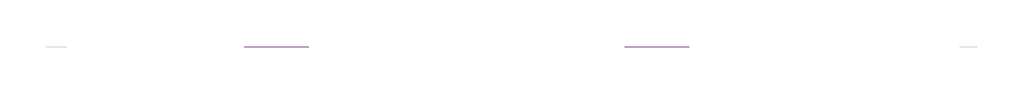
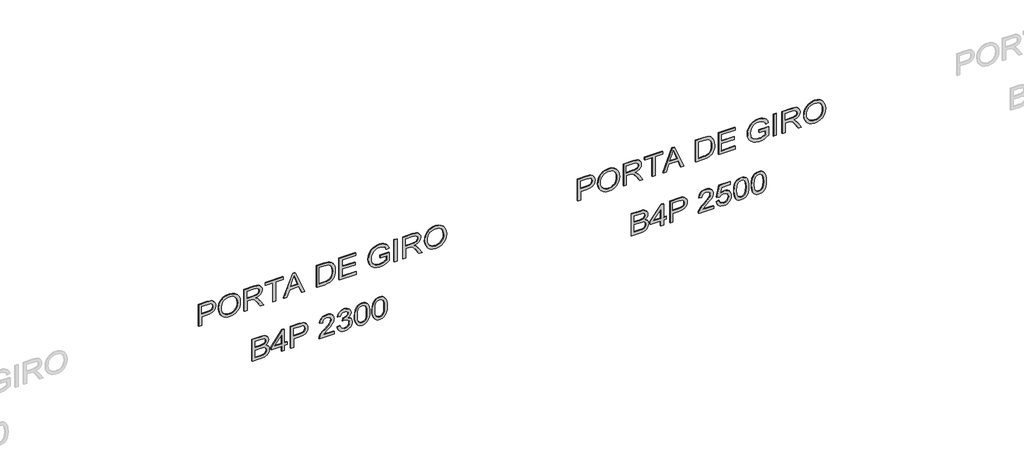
# One storey, part 6 of 13: 2 proxies.
"""IFC4 building model written with IfcOpenShell, lengths in millimetres."""

from ifc_helpers import new_model, si_unit, frame, origin, place, context, project, spatial, polyline, outline, extrude, element, save

model = new_model("IFC4")

# Units and contexts
model_context = context("Model", 3, world=origin())
ifc_project = project(units=[si_unit("LENGTHUNIT", "METRE", prefix="MILLI")], contexts=[model_context])

# Site, building, storey
site = spatial("IfcSite", under=ifc_project)
building = spatial("IfcBuilding", under=site)
storey = spatial("IfcBuildingStorey", under=building, Name="02 - Marelli - Planta Baixa - Portas", Elevation=-12000.0)

# Proxies
placement = place(None, origin())
element("IfcBuildingElementProxy", 1, Name="300mm Arial", ObjectType="300mm Arial", at=placement, inside=storey, context=model_context, shape_type="SweptSolid", body=[
    extrude(outline(polyline([(-6049.0625952, 27248.0968395), (-6049.0625952, 27285.7679558), (-5926.6314672, 27285.7679558), (-5926.6314672, 27362.3609872), (-5924.9668012, 27391.5593213), (-5919.9728031, 27415.8786204), (-5911.6494729, 27435.3188846), (-5899.9968107, 27449.8801138), (-5885.93912, 27460.4866116), (-5870.4007042, 27468.0626814), (-5853.3815634, 27472.6083233), (-5834.8816976, 27474.1235373), (-5813.4249802, 27471.8794571), (-5793.7892787, 27465.1472166), (-5777.1426184, 27454.7269591), (-5764.6530247, 27441.4188279), (-5755.9250244, 27424.8917293), (-5750.5631443, 27404.8145694), (-5747.6936647, 27359.7858132), (-5747.6936647, 27248.0968395), (-6049.0625952, 27248.0968395)]), holes=[polyline([(-5888.9603509, 27285.7679558), (-5785.364781, 27285.7679558), (-5785.364781, 27363.6853623), (-5787.939955, 27401.3564786), (-5794.2675253, 27415.5843148), (-5805.0096796, 27426.7771245), (-5819.283501, 27434.0335969), (-5836.2060728, 27436.452421), (-5858.4813276, 27432.3505367), (-5875.1279879, 27420.044884), (-5885.5022601, 27397.9719643), (-5888.9603509, 27364.5682791), (-5888.9603509, 27285.7679558)])]), frame((0.0, 8778.3159498, 0.0), z_axis=(0.0, 1.0, 0.0), x_axis=(0.0, 0.0, 1.0)), (0.0, 0.0, 1.0), 10.0),
    extrude(outline(polyline([(-5902.3512555, 27511.7946536), (-5940.8960916, 27516.0988729), (-5977.3623943, 27529.011531), (-6009.0554282, 27550.2751103), (-6033.2804576, 27579.6320935), (-6048.6487279, 27615.2798588), (-6053.7714847, 27655.4157845), (-6049.1361716, 27693.2248566), (-6035.2302322, 27728.3667842), (-6012.3111839, 27758.3307727), (-5980.6365441, 27780.6060275), (-5942.1744815, 27794.4291934), (-5898.8931648, 27799.0369154), (-5856.1820651, 27794.6591197), (-5818.2534314, 27781.5257325), (-5786.6339739, 27760.0414239), (-5762.8504029, 27730.6108643), (-5747.9511821, 27695.1654341), (-5742.9847752, 27655.6365137), (-5745.628927, 27625.3460299), (-5753.5613826, 27597.971011), (-5766.7821418, 27573.5114568), (-5785.2912046, 27551.9673675), (-5808.4723689, 27534.3918051), (-5835.7094321, 27521.8378321), (-5867.0023943, 27514.3054482), (-5902.3512555, 27511.7946536)]), holes=[polyline([(-5902.7191375, 27549.4657699), (-5872.1826326, 27551.4293401), (-5846.3504188, 27557.3200505), (-5825.222496, 27567.1379012), (-5808.7988641, 27580.8828923), (-5796.4863136, 27597.3502101), (-5787.6916347, 27615.3350411), (-5782.4148273, 27634.8373854), (-5780.6558915, 27655.8572429), (-5784.3071203, 27685.0210881), (-5795.2608067, 27711.1499068), (-5812.8547631, 27732.8089592), (-5836.426802, 27748.5635057), (-5865.2503563, 27758.1652258), (-5898.5988592, 27761.3657991), (-5925.1369466, 27759.4964987), (-5948.4652636, 27753.8885976), (-5968.5838102, 27744.5420956), (-5985.4925864, 27731.4569929), (-5998.883491, 27715.4748195), (-6008.4484229, 27697.4371054), (-6014.187382, 27677.3438507), (-6016.1003684, 27655.1950553), (-6014.2057761, 27633.4187405), (-6008.5219993, 27613.5600105), (-5999.0490379, 27595.6188655), (-5985.786892, 27579.5953053), (-5969.2276037, 27566.4136336), (-5949.8632152, 27556.9981538), (-5927.6937264, 27551.3488659), (-5902.7191375, 27549.4657699)])]), frame((0.0, 8778.3159498, 0.0), z_axis=(0.0, 1.0, 0.0), x_axis=(0.0, 0.0, 1.0)), (0.0, 0.0, 1.0), 10.0),
    extrude(outline(polyline([(-6049.0625952, 27850.8347003), (-6049.0625952, 27888.5058167), (-5917.2136881, 27888.5058167), (-5917.2136881, 27933.9760313), (-5918.5380633, 27955.8282218), (-5925.7117622, 27973.7440749), (-5945.2462961, 27993.6464909), (-5986.5962324, 28021.9734045), (-6049.0625952, 28061.1896252), (-6049.0625952, 28104.9675826), (-5967.3927923, 28054.7149021), (-5928.61803, 28024.1806965), (-5912.5047986, 28002.7699644), (-5902.5168024, 28039.8800606), (-5894.5015734, 28054.2619474), (-5884.4721905, 28065.8617265), (-5859.8608851, 28081.1748146), (-5830.1728081, 28086.2791773), (-5806.3064636, 28083.1981656), (-5784.5922289, 28073.9551304), (-5767.0810459, 28059.5525503), (-5755.8238568, 28040.9929037), (-5749.7262128, 28015.5998489), (-5747.6936647, 27980.6970446), (-5747.6936647, 27850.8347003), (-6049.0625952, 27850.8347003)]), holes=[polyline([(-5879.5425718, 27888.5058167), (-5785.364781, 27888.5058167), (-5785.364781, 27982.3157254), (-5788.6205367, 28012.1233641), (-5798.3878037, 28032.6787706), (-5813.195054, 28044.6257384), (-5831.5707596, 28048.608061), (-5844.8788908, 28046.5203306), (-5857.1385583, 28040.2571397), (-5867.2737073, 28029.9748379), (-5874.2082829, 28015.8297752), (-5878.2089996, 27997.0402023), (-5879.5425718, 27972.82437), (-5879.5425718, 27888.5058167)])]), frame((0.0, 8778.3159498, 0.0), z_axis=(0.0, 1.0, 0.0), x_axis=(0.0, 0.0, 1.0)), (0.0, 0.0, 1.0), 10.0),
    extrude(outline(polyline([(-6049.0625952, 28227.5458634), (-6049.0625952, 28265.2169797), (-5785.364781, 28265.2169797), (-5785.364781, 28364.10366), (-5747.6936647, 28364.10366), (-5747.6936647, 28128.6591831), (-5785.364781, 28128.6591831), (-5785.364781, 28227.5458634), (-6049.0625952, 28227.5458634)])), frame((0.0, 8778.3159498, 0.0), z_axis=(0.0, 1.0, 0.0), x_axis=(0.0, 0.0, 1.0)), (0.0, 0.0, 1.0), 10.0),
    extrude(outline(polyline([(-6049.0625952, 28371.3877235), (-6049.0625952, 28411.1925554), (-5954.8848044, 28445.6263102), (-5954.8848044, 28569.7496953), (-6049.0625952, 28604.2570265), (-6049.0625952, 28644.0618583), (-5747.6936647, 28523.7644459), (-5747.6936647, 28491.6851359), (-6049.0625952, 28371.3877235)]), holes=[polyline([(-5917.2136881, 28459.4586732), (-5836.6475312, 28488.9628092), (-5785.364781, 28507.7247909), (-5843.1222543, 28528.8412175), (-5917.2136881, 28555.9909087), (-5917.2136881, 28459.4586732)])]), frame((0.0, 8778.3159498, 0.0), z_axis=(0.0, 1.0, 0.0), x_axis=(0.0, 0.0, 1.0)), (0.0, 0.0, 1.0), 10.0),
    extrude(outline(polyline([(-6049.0625952, 28802.0303871), (-6049.0625952, 28910.9970341), (-6043.9122473, 28959.4470928), (-6037.5570858, 28978.9908238), (-6028.7922972, 28995.4627401), (-6016.9740882, 29009.810138), (-6001.458665, 29022.9803134), (-5981.8045694, 29034.4214434), (-5957.570343, 29043.5817051), (-5929.1054736, 29049.5965757), (-5896.7594492, 29051.6015326), (-5858.6836627, 29048.6400825), (-5825.0960365, 29039.7557324), (-5796.5483937, 29024.9116939), (-5773.5925572, 29004.0711788), (-5760.4039877, 28983.8008809), (-5752.0346723, 28959.7781866), (-5747.6936647, 28905.9938389), (-5747.6936647, 28802.0303871), (-6049.0625952, 28802.0303871)]), holes=[polyline([(-6011.3914789, 28839.7015034), (-5785.364781, 28839.7015034), (-5785.364781, 28905.3316513), (-5786.8730972, 28937.0798675), (-5791.3980458, 28958.748117), (-5803.97961, 28980.0392875), (-5824.8017309, 28997.8539731), (-5855.1152073, 29009.9113055), (-5896.170838, 29013.9304163), (-5927.155699, 29011.8794742), (-5953.155759, 29005.7266478), (-5974.2629885, 28995.8950015), (-5990.5693579, 28982.8075995), (-5999.3801317, 28970.6307055), (-6005.9468253, 28954.8485679), (-6010.0303155, 28933.9344764), (-6011.3914789, 28906.3617209), (-6011.3914789, 28839.7015034)])]), frame((0.0, 8778.3159498, 0.0), z_axis=(0.0, 1.0, 0.0), x_axis=(0.0, 0.0, 1.0)), (0.0, 0.0, 1.0), 10.0),
    extrude(outline(polyline([(-6049.0625952, 29103.3993175), (-6049.0625952, 29324.7171258), (-6011.3914789, 29324.7171258), (-6011.3914789, 29141.0704338), (-5912.5047986, 29141.0704338), (-5912.5047986, 29310.5904572), (-5874.8336823, 29310.5904572), (-5874.8336823, 29141.0704338), (-5785.364781, 29141.0704338), (-5785.364781, 29320.0082363), (-5747.6936647, 29320.0082363), (-5747.6936647, 29103.3993175), (-6049.0625952, 29103.3993175)])), frame((0.0, 8778.3159498, 0.0), z_axis=(0.0, 1.0, 0.0), x_axis=(0.0, 0.0, 1.0)), (0.0, 0.0, 1.0), 10.0),
    extrude(outline(polyline([(-5931.3403567, 29640.2127249), (-5931.3403567, 29724.9727366), (-5985.786892, 29724.9727366), (-5996.4278787, 29708.9238845), (-6006.4250719, 29686.8233737), (-6013.6815443, 29661.3751367), (-6016.1003684, 29635.2831062), (-6012.890598, 29605.7329849), (-6003.2612868, 29577.8567267), (-5987.0192967, 29554.0363675), (-5963.9714897, 29536.6539432), (-5934.3293979, 29526.0313506), (-5898.3045536, 29522.4904864), (-5867.586407, 29525.4335424), (-5839.1491287, 29534.2627103), (-5810.1232393, 29553.6500914), (-5798.1854686, 29568.0894597), (-5788.7860836, 29586.4651654), (-5782.6884395, 29608.694435), (-5780.6558915, 29634.694495), (-5782.5412867, 29656.9053704), (-5788.1974724, 29677.0377126), (-5796.9898521, 29693.9234962), (-5808.2838293, 29706.3946958), (-5823.2658236, 29715.8216719), (-5843.1222543, 29723.574785), (-5833.3365932, 29758.3028453), (-5805.4971232, 29748.7103223), (-5783.4885829, 29735.5309498), (-5766.4924347, 29717.7162642), (-5753.6901413, 29694.2178018), (-5745.6611167, 29666.3139524), (-5742.9847752, 29635.2831062), (-5747.6016942, 29593.0134649), (-5761.4524514, 29555.967748), (-5784.803761, 29525.553104), (-5817.9223376, 29503.1766817), (-5857.4052727, 29489.408698), (-5899.8496579, 29484.8193701), (-5941.9905405, 29489.4270921), (-5979.9743565, 29503.2502581), (-6011.6397992, 29526.1141241), (-6034.825562, 29557.8439462), (-6049.035004, 29596.0392943), (-6053.7714847, 29638.2997385), (-6050.7916406, 29670.6457629), (-6041.8521081, 29702.2008411), (-6027.0080696, 29732.8913965), (-6006.3147073, 29762.6438529), (-5893.6692404, 29762.6438529), (-5893.6692404, 29640.2127249), (-5931.3403567, 29640.2127249)])), frame((0.0, 8778.3159498, 0.0), z_axis=(0.0, 1.0, 0.0), x_axis=(0.0, 0.0, 1.0)), (0.0, 0.0, 1.0), 10.0),
    extrude(outline(polyline([(29866.2394227, 8778.3159498), (29828.5683064, 8778.3159498), (29828.5683064, 8788.3159498), (29866.2394227, 8788.3159498), (29866.2394227, 8778.3159498)])), frame((0.0, 0.0, -6049.0625952), z_axis=(0.0, 0.0, 1.0), x_axis=(1.0, 0.0, 0.0)), (0.0, 0.0, 1.0), 301.3689304),
    extrude(outline(polyline([(-6049.0625952, 29941.5816553), (-6049.0625952, 29979.2527716), (-5917.2136881, 29979.2527716), (-5917.2136881, 30024.7229862), (-5918.5380633, 30046.5751768), (-5925.7117622, 30064.4910299), (-5945.2462961, 30084.3934459), (-5986.5962324, 30112.7203595), (-6049.0625952, 30151.9365802), (-6049.0625952, 30195.7145376), (-5967.3927923, 30145.4618571), (-5928.61803, 30114.9276515), (-5912.5047986, 30093.5169193), (-5902.5168024, 30130.6270156), (-5894.5015734, 30145.0089024), (-5884.4721905, 30156.6086815), (-5859.8608851, 30171.9217696), (-5830.1728081, 30177.0261323), (-5806.3064636, 30173.9451205), (-5784.5922289, 30164.7020854), (-5767.0810459, 30150.2995053), (-5755.8238568, 30131.7398586), (-5749.7262128, 30106.3468039), (-5747.6936647, 30071.4439996), (-5747.6936647, 29941.5816553), (-6049.0625952, 29941.5816553)]), holes=[polyline([(-5879.5425718, 29979.2527716), (-5785.364781, 29979.2527716), (-5785.364781, 30073.0626804), (-5788.6205367, 30102.8703191), (-5798.3878037, 30123.4257256), (-5813.195054, 30135.3726933), (-5831.5707596, 30139.3550159), (-5844.8788908, 30137.2672856), (-5857.1385583, 30131.0040947), (-5867.2737073, 30120.7217929), (-5874.2082829, 30106.5767302), (-5878.2089996, 30087.7871573), (-5879.5425718, 30063.5713249), (-5879.5425718, 29979.2527716)])]), frame((0.0, 8778.3159498, 0.0), z_axis=(0.0, 1.0, 0.0), x_axis=(0.0, 0.0, 1.0)), (0.0, 0.0, 1.0), 10.0),
    extrude(outline(polyline([(-5902.3512555, 30228.8239172), (-5940.8960916, 30233.1281365), (-5977.3623943, 30246.0407945), (-6009.0554282, 30267.3043739), (-6033.2804576, 30296.6613571), (-6048.6487279, 30332.3091224), (-6053.7714847, 30372.4450481), (-6049.1361716, 30410.2541201), (-6035.2302322, 30445.3960477), (-6012.3111839, 30475.3600362), (-5980.6365441, 30497.635291), (-5942.1744815, 30511.458457), (-5898.8931648, 30516.066179), (-5856.1820651, 30511.6883833), (-5818.2534314, 30498.554996), (-5786.6339739, 30477.0706875), (-5762.8504029, 30447.6401279), (-5747.9511821, 30412.1946977), (-5742.9847752, 30372.6657773), (-5745.628927, 30342.3752935), (-5753.5613826, 30315.0002745), (-5766.7821418, 30290.5407204), (-5785.2912046, 30268.996631), (-5808.4723689, 30251.4210687), (-5835.7094321, 30238.8670956), (-5867.0023943, 30231.3347118), (-5902.3512555, 30228.8239172)]), holes=[polyline([(-5902.7191375, 30266.4950335), (-5872.1826326, 30268.4586036), (-5846.3504188, 30274.3493141), (-5825.222496, 30284.1671648), (-5808.7988641, 30297.9121559), (-5796.4863136, 30314.3794737), (-5787.6916347, 30332.3643047), (-5782.4148273, 30351.866649), (-5780.6558915, 30372.8865065), (-5784.3071203, 30402.0503517), (-5795.2608067, 30428.1791704), (-5812.8547631, 30449.8382228), (-5836.426802, 30465.5927693), (-5865.2503563, 30475.1944893), (-5898.5988592, 30478.3950627), (-5925.1369466, 30476.5257623), (-5948.4652636, 30470.9178611), (-5968.5838102, 30461.5713592), (-5985.4925864, 30448.4862565), (-5998.883491, 30432.5040831), (-6008.4484229, 30414.466369), (-6014.187382, 30394.3731143), (-6016.1003684, 30372.2243189), (-6014.2057761, 30350.448004), (-6008.5219993, 30330.5892741), (-5999.0490379, 30312.648129), (-5985.786892, 30296.6245689), (-5969.2276037, 30283.4428971), (-5949.8632152, 30274.0274173), (-5927.6937264, 30268.3781294), (-5902.7191375, 30266.4950335)])]), frame((0.0, 8778.3159498, 0.0), z_axis=(0.0, 1.0, 0.0), x_axis=(0.0, 0.0, 1.0)), (0.0, 0.0, 1.0), 10.0),
    extrude(outline(polyline([(-6780.9115023, 27954.4302702), (-6780.9115023, 28068.5472651), (-6775.7243661, 28116.8501711), (-6769.3048253, 28134.8855859), (-6760.4204751, 28149.6284568), (-6748.1516106, 28161.6673951), (-6731.5785267, 28171.5910119), (-6712.089978, 28178.240479), (-6691.074719, 28180.456968), (-6665.8564083, 28177.2104094), (-6644.2065528, 28167.4707336), (-6627.2471929, 28151.6977931), (-6616.1003684, 28130.3514403), (-6604.3557357, 28148.2213082), (-6589.4289238, 28160.9224341), (-6572.3683962, 28168.5100002), (-6554.2226168, 28171.039189), (-6534.5041419, 28168.0317536), (-6515.6685837, 28159.0094477), (-6499.6565199, 28144.680444), (-6488.4085279, 28125.7529153), (-6481.7590608, 28101.0588364), (-6479.5425718, 28069.4301819), (-6479.5425718, 27954.4302702), (-6780.9115023, 27954.4302702)]), holes=[polyline([(-6743.2403859, 27992.1013865), (-6639.6448161, 27992.1013865), (-6639.6448161, 28065.6777855), (-6640.9048119, 28092.50558), (-6644.6847994, 28112.2148579), (-6651.5733898, 28126.1299944), (-6662.1591942, 28135.5753646), (-6675.6972516, 28140.9832299), (-6691.442601, 28142.7858517), (-6704.9990525, 28141.2499444), (-6716.8264587, 28136.6422224), (-6733.5650895, 28120.9704494), (-6741.768858, 28097.3156371), (-6743.2403859, 28069.3566055), (-6743.2403859, 27992.1013865)]), polyline([(-6601.9736998, 27992.1013865), (-6517.2136881, 27992.1013865), (-6517.2136881, 28055.6713953), (-6521.1500255, 28104.0846658), (-6526.7510288, 28116.5742596), (-6535.6813643, 28125.7897035), (-6547.1224943, 28131.4734804), (-6560.2558815, 28133.3680726), (-6573.7847419, 28131.3355246), (-6584.7936106, 28125.2378806), (-6593.153729, 28115.1303227), (-6598.7363382, 28101.0680335), (-6601.9736998, 28060.8953196), (-6601.9736998, 27992.1013865)])]), frame((0.0, 8778.3159498, 0.0), z_axis=(0.0, 1.0, 0.0), x_axis=(0.0, 0.0, 1.0)), (0.0, 0.0, 1.0), 10.0),
    extrude(outline(polyline([(-6780.9115023, 28340.5592123), (-6780.9115023, 28378.2303286), (-6710.2781592, 28378.2303286), (-6710.2781592, 28415.9014449), (-6672.6070429, 28415.9014449), (-6672.6070429, 28378.2303286), (-6484.2514613, 28378.2303286), (-6484.2514613, 28349.9769914), (-6672.6070429, 28204.0014157), (-6710.2781592, 28204.0014157), (-6710.2781592, 28340.5592123), (-6780.9115023, 28340.5592123)]), holes=[polyline([(-6672.6070429, 28340.5592123), (-6672.6070429, 28250.3545471), (-6556.2091796, 28340.5592123), (-6672.6070429, 28340.5592123)])]), frame((0.0, 8778.3159498, 0.0), z_axis=(0.0, 1.0, 0.0), x_axis=(0.0, 0.0, 1.0)), (0.0, 0.0, 1.0), 10.0),
    extrude(outline(polyline([(-6780.9115023, 28462.9903403), (-6780.9115023, 28500.6614566), (-6658.4803743, 28500.6614566), (-6658.4803743, 28577.254488), (-6656.8157082, 28606.4528221), (-6651.8217101, 28630.7721213), (-6643.49838, 28650.2123855), (-6631.8457178, 28664.7736147), (-6617.7880271, 28675.3801125), (-6602.2496113, 28682.9561823), (-6585.2304705, 28687.5018242), (-6566.7306047, 28689.0170382), (-6545.2738873, 28686.772958), (-6525.6381858, 28680.0407175), (-6508.9915255, 28669.62046), (-6496.5019318, 28656.3123288), (-6487.7739314, 28639.7852302), (-6482.4120514, 28619.7080703), (-6479.5425718, 28574.6793141), (-6479.5425718, 28462.9903403), (-6780.9115023, 28462.9903403)]), holes=[polyline([(-6620.809258, 28500.6614566), (-6517.2136881, 28500.6614566), (-6517.2136881, 28578.5788632), (-6519.7888621, 28616.2499795), (-6526.1164324, 28630.4778157), (-6536.8585867, 28641.6706254), (-6551.1324081, 28648.9270977), (-6568.0549798, 28651.3459219), (-6590.3302347, 28647.2440376), (-6606.9768949, 28634.9383849), (-6617.3511672, 28612.8654652), (-6620.809258, 28579.46178), (-6620.809258, 28500.6614566)])]), frame((0.0, 8778.3159498, 0.0), z_axis=(0.0, 1.0, 0.0), x_axis=(0.0, 0.0, 1.0)), (0.0, 0.0, 1.0), 10.0),
    extrude(outline(polyline([(-6743.2403859, 29037.474864), (-6743.2403859, 28889.5127255), (-6724.073734, 28906.5088737), (-6687.8373575, 28949.8453727), (-6658.8206651, 28982.5408851), (-6636.2235136, 29003.8136614), (-6617.2959849, 29017.1585808), (-6599.2881612, 29026.0705221), (-6581.5838402, 29031.0921114), (-6563.5668195, 29032.7659745), (-6546.4143215, 29031.2139723), (-6530.7149573, 29026.5579658), (-6516.4687271, 29018.7979549), (-6503.6756307, 29007.9339398), (-6493.1174174, 28994.4073787), (-6485.5758365, 28978.65973), (-6481.050888, 28960.6909938), (-6479.5425718, 28940.5011701), (-6484.9688312, 28902.6185216), (-6491.7516555, 28886.8846685), (-6501.2476095, 28873.2891295), (-6513.3279345, 28862.0894221), (-6527.8638719, 28853.5430635), (-6564.3025835, 28844.4103929), (-6569.011473, 28882.0815092), (-6547.3616176, 28886.1558023), (-6530.9724747, 28897.9372232), (-6520.6533848, 28916.1933672), (-6517.2136881, 28939.6918297), (-6520.7361582, 28962.068252), (-6531.3035685, 28979.7541789), (-6546.9845386, 28991.2596883), (-6565.8476879, 28995.0948581), (-6586.890538, 28991.0297621), (-6608.5219993, 28978.834474), (-6635.1750499, 28954.4438977), (-6671.2826677, 28913.7929372), (-6694.3396717, 28886.2937581), (-6714.9502605, 28866.6304654), (-6734.6411443, 28853.0372257), (-6754.9390334, 28843.7482053), (-6780.9115023, 28839.7015034), (-6780.9115023, 29037.474864), (-6743.2403859, 29037.474864)])), frame((0.0, 8778.3159498, 0.0), z_axis=(0.0, 1.0, 0.0), x_axis=(0.0, 0.0, 1.0)), (0.0, 0.0, 1.0), 10.0),
    extrude(outline(polyline([(-6700.8603801, 29075.1459803), (-6718.7532406, 29078.3971374), (-6734.9078588, 29084.4717889), (-6749.3242344, 29093.3699346), (-6762.0023677, 29105.0915747), (-6772.3352532, 29119.0710905), (-6779.7158858, 29134.7428635), (-6784.1442653, 29152.1068937), (-6785.6203918, 29171.163181), (-6783.8913464, 29192.2474179), (-6778.7042103, 29211.4278654), (-6770.0589834, 29228.7045236), (-6757.9556658, 29244.0773925), (-6743.3691446, 29256.6957449), (-6727.2743074, 29265.7088538), (-6709.6711539, 29271.1167191), (-6690.5596842, 29272.9193409), (-6663.593934, 29269.3140974), (-6641.5578025, 29258.4983667), (-6625.3342065, 29241.0239719), (-6615.8060628, 29217.442736), (-6604.9351499, 29235.3953774), (-6590.8636635, 29248.3448236), (-6574.345762, 29256.1807101), (-6556.1356032, 29258.7926723), (-6536.5918722, 29256.0427544), (-6518.1333931, 29247.7930006), (-6502.1121322, 29234.3469137), (-6489.8800559, 29216.0079963), (-6482.1269428, 29194.2569733), (-6479.5425718, 29170.5745698), (-6484.7848902, 29137.6859195), (-6500.5118455, 29110.683381), (-6525.7669445, 29090.946512), (-6559.593694, 29079.8548698), (-6564.3025835, 29117.5259861), (-6543.7011918, 29124.2030444), (-6528.985912, 29135.9936623), (-6520.1567441, 29152.1436819), (-6517.2136881, 29171.898945), (-6520.1291529, 29191.61742), (-6528.8755474, 29207.3627694), (-6542.0733139, 29217.6818593), (-6558.3428952, 29221.121556), (-6577.8774291, 29216.3758782), (-6591.5994275, 29202.138845), (-6599.7112255, 29181.9605176), (-6602.4151582, 29159.3909572), (-6601.9736998, 29153.3576925), (-6639.6448161, 29149.1638377), (-6635.5245378, 29175.577765), (-6639.3781017, 29199.2693655), (-6650.9387934, 29218.3992292), (-6668.385597, 29231.0359758), (-6689.8974966, 29235.2482246), (-6712.5590276, 29230.9991876), (-6731.2474329, 29218.2520764), (-6743.7738148, 29198.3128723), (-6747.9492755, 29172.4875562), (-6744.914249, 29150.4790159), (-6735.8091696, 29133.6024293), (-6719.824697, 29121.2507913), (-6696.1514906, 29112.8170966), (-6700.8603801, 29075.1459803)])), frame((0.0, 8778.3159498, 0.0), z_axis=(0.0, 1.0, 0.0), x_axis=(0.0, 0.0, 1.0)), (0.0, 0.0, 1.0), 10.0),
    extrude(outline(polyline([(-6632.6550582, 29305.8815677), (-6672.0966066, 29307.7577658), (-6705.9555457, 29313.3863604), (-6734.2318756, 29322.7673513), (-6756.9255962, 29335.9007385), (-6769.4795693, 29349.5859487), (-6778.4466929, 29365.6256037), (-6783.8269671, 29384.0197034), (-6785.6203918, 29404.768248), (-6781.4909164, 29435.2196801), (-6769.1024902, 29459.9137591), (-6748.3171575, 29479.0160317), (-6718.9969625, 29492.6920448), (-6680.6176733, 29500.9142074), (-6632.6550582, 29503.6549283), (-6592.6938765, 29501.944277), (-6561.8377741, 29496.8123232), (-6537.5391683, 29488.9764367), (-6517.2504763, 29479.1539874), (-6501.1096538, 29466.1493589), (-6489.2546565, 29448.7669346), (-6481.970593, 29427.9816019), (-6479.5425718, 29404.768248), (-6483.6444561, 29374.4823627), (-6495.9501088, 29349.8434661), (-6516.6526681, 29330.7136023), (-6545.9452719, 29316.9548157), (-6584.4165316, 29308.6498797), (-6632.6550582, 29305.8815677)]), holes=[polyline([(-6632.5814818, 29343.552684), (-6574.0882446, 29348.1144207), (-6553.0086062, 29353.8165916), (-6537.3736214, 29361.7996309), (-6522.2536714, 29380.7455537), (-6517.2136881, 29404.3267896), (-6522.9342531, 29429.2324007), (-6540.0959482, 29448.9140874), (-6554.4571416, 29456.3820919), (-6574.6584617, 29461.7163808), (-6632.5814818, 29465.983812), (-6691.7461037, 29461.569228), (-6712.0095038, 29456.0509981), (-6726.0602968, 29448.3254762), (-6742.4770308, 29428.6070013), (-6747.9492755, 29404.768248), (-6742.4954249, 29380.9294947), (-6726.1338732, 29361.2110197), (-6712.1060728, 29353.4854978), (-6691.8380742, 29347.9672679), (-6632.5814818, 29343.552684)])]), frame((0.0, 8778.3159498, 0.0), z_axis=(0.0, 1.0, 0.0), x_axis=(0.0, 0.0, 1.0)), (0.0, 0.0, 1.0), 10.0),
    extrude(outline(polyline([(-6632.6550582, 29536.617155), (-6672.0966066, 29538.4933532), (-6705.9555457, 29544.1219477), (-6734.2318756, 29553.5029386), (-6756.9255962, 29566.6363259), (-6769.4795693, 29580.3215361), (-6778.4466929, 29596.3611911), (-6783.8269671, 29614.7552908), (-6785.6203918, 29635.5038354), (-6781.4909164, 29665.9552675), (-6769.1024902, 29690.6493464), (-6748.3171575, 29709.751619), (-6718.9969625, 29723.4276322), (-6680.6176733, 29731.6497948), (-6632.6550582, 29734.3905157), (-6592.6938765, 29732.6798644), (-6561.8377741, 29727.5479105), (-6537.5391683, 29719.712024), (-6517.2504763, 29709.8895748), (-6501.1096538, 29696.8849462), (-6489.2546565, 29679.502522), (-6481.970593, 29658.7171892), (-6479.5425718, 29635.5038354), (-6483.6444561, 29605.2179501), (-6495.9501088, 29580.5790535), (-6516.6526681, 29561.4491897), (-6545.9452719, 29547.6904031), (-6584.4165316, 29539.3854671), (-6632.6550582, 29536.617155)]), holes=[polyline([(-6632.5814818, 29574.2882714), (-6574.0882446, 29578.8500081), (-6553.0086062, 29584.552179), (-6537.3736214, 29592.5352183), (-6522.2536714, 29611.4811411), (-6517.2136881, 29635.062377), (-6522.9342531, 29659.967988), (-6540.0959482, 29679.6496748), (-6554.4571416, 29687.1176793), (-6574.6584617, 29692.4519682), (-6632.5814818, 29696.7193993), (-6691.7461037, 29692.3048154), (-6712.0095038, 29686.7865855), (-6726.0602968, 29679.0610636), (-6742.4770308, 29659.3425886), (-6747.9492755, 29635.5038354), (-6742.4954249, 29611.6650821), (-6726.1338732, 29591.9466071), (-6712.1060728, 29584.2210852), (-6691.8380742, 29578.7028553), (-6632.5814818, 29574.2882714)])]), frame((0.0, 8778.3159498, 0.0), z_axis=(0.0, 1.0, 0.0), x_axis=(0.0, 0.0, 1.0)), (0.0, 0.0, 1.0), 10.0),
])
element("IfcBuildingElementProxy", 2, Name="300mm Arial", ObjectType="300mm Arial", at=placement, inside=storey, context=model_context, shape_type="SweptSolid", body=[
    extrude(outline(polyline([(-6049.0625952, 32248.0968395), (-6049.0625952, 32285.7679558), (-5926.6314672, 32285.7679558), (-5926.6314672, 32362.3609872), (-5924.9668012, 32391.5593213), (-5919.9728031, 32415.8786204), (-5911.6494729, 32435.3188846), (-5899.9968107, 32449.8801138), (-5885.93912, 32460.4866116), (-5870.4007042, 32468.0626814), (-5853.3815634, 32472.6083233), (-5834.8816976, 32474.1235373), (-5813.4249802, 32471.8794571), (-5793.7892787, 32465.1472166), (-5777.1426184, 32454.7269591), (-5764.6530247, 32441.4188279), (-5755.9250244, 32424.8917293), (-5750.5631443, 32404.8145694), (-5747.6936647, 32359.7858132), (-5747.6936647, 32248.0968395), (-6049.0625952, 32248.0968395)]), holes=[polyline([(-5888.9603509, 32285.7679558), (-5785.364781, 32285.7679558), (-5785.364781, 32363.6853623), (-5787.939955, 32401.3564786), (-5794.2675253, 32415.5843148), (-5805.0096796, 32426.7771245), (-5819.283501, 32434.0335969), (-5836.2060728, 32436.452421), (-5858.4813276, 32432.3505367), (-5875.1279879, 32420.044884), (-5885.5022601, 32397.9719643), (-5888.9603509, 32364.5682791), (-5888.9603509, 32285.7679558)])]), frame((0.0, 8778.3159498, 0.0), z_axis=(0.0, 1.0, 0.0), x_axis=(0.0, 0.0, 1.0)), (0.0, 0.0, 1.0), 10.0),
    extrude(outline(polyline([(-5902.3512555, 32511.7946536), (-5940.8960916, 32516.0988729), (-5977.3623943, 32529.011531), (-6009.0554282, 32550.2751103), (-6033.2804576, 32579.6320935), (-6048.6487279, 32615.2798588), (-6053.7714847, 32655.4157845), (-6049.1361716, 32693.2248566), (-6035.2302322, 32728.3667842), (-6012.3111839, 32758.3307727), (-5980.6365441, 32780.6060275), (-5942.1744815, 32794.4291934), (-5898.8931648, 32799.0369154), (-5856.1820651, 32794.6591197), (-5818.2534314, 32781.5257325), (-5786.6339739, 32760.0414239), (-5762.8504029, 32730.6108643), (-5747.9511821, 32695.1654341), (-5742.9847752, 32655.6365137), (-5745.628927, 32625.3460299), (-5753.5613826, 32597.971011), (-5766.7821418, 32573.5114568), (-5785.2912046, 32551.9673675), (-5808.4723689, 32534.3918051), (-5835.7094321, 32521.8378321), (-5867.0023943, 32514.3054482), (-5902.3512555, 32511.7946536)]), holes=[polyline([(-5902.7191375, 32549.4657699), (-5872.1826326, 32551.4293401), (-5846.3504188, 32557.3200505), (-5825.222496, 32567.1379012), (-5808.7988641, 32580.8828923), (-5796.4863136, 32597.3502101), (-5787.6916347, 32615.3350411), (-5782.4148273, 32634.8373854), (-5780.6558915, 32655.8572429), (-5784.3071203, 32685.0210881), (-5795.2608067, 32711.1499068), (-5812.8547631, 32732.8089592), (-5836.426802, 32748.5635057), (-5865.2503563, 32758.1652258), (-5898.5988592, 32761.3657991), (-5925.1369466, 32759.4964987), (-5948.4652636, 32753.8885976), (-5968.5838102, 32744.5420956), (-5985.4925864, 32731.4569929), (-5998.883491, 32715.4748195), (-6008.4484229, 32697.4371054), (-6014.187382, 32677.3438507), (-6016.1003684, 32655.1950553), (-6014.2057761, 32633.4187405), (-6008.5219993, 32613.5600105), (-5999.0490379, 32595.6188655), (-5985.786892, 32579.5953053), (-5969.2276037, 32566.4136336), (-5949.8632152, 32556.9981538), (-5927.6937264, 32551.3488659), (-5902.7191375, 32549.4657699)])]), frame((0.0, 8778.3159498, 0.0), z_axis=(0.0, 1.0, 0.0), x_axis=(0.0, 0.0, 1.0)), (0.0, 0.0, 1.0), 10.0),
    extrude(outline(polyline([(-6049.0625952, 32850.8347003), (-6049.0625952, 32888.5058167), (-5917.2136881, 32888.5058167), (-5917.2136881, 32933.9760313), (-5918.5380633, 32955.8282218), (-5925.7117622, 32973.7440749), (-5945.2462961, 32993.6464909), (-5986.5962324, 33021.9734045), (-6049.0625952, 33061.1896252), (-6049.0625952, 33104.9675826), (-5967.3927923, 33054.7149021), (-5928.61803, 33024.1806965), (-5912.5047986, 33002.7699644), (-5902.5168024, 33039.8800606), (-5894.5015734, 33054.2619474), (-5884.4721905, 33065.8617265), (-5859.8608851, 33081.1748146), (-5830.1728081, 33086.2791773), (-5806.3064636, 33083.1981656), (-5784.5922289, 33073.9551304), (-5767.0810459, 33059.5525503), (-5755.8238568, 33040.9929037), (-5749.7262128, 33015.5998489), (-5747.6936647, 32980.6970446), (-5747.6936647, 32850.8347003), (-6049.0625952, 32850.8347003)]), holes=[polyline([(-5879.5425718, 32888.5058167), (-5785.364781, 32888.5058167), (-5785.364781, 32982.3157254), (-5788.6205367, 33012.1233641), (-5798.3878037, 33032.6787706), (-5813.195054, 33044.6257384), (-5831.5707596, 33048.608061), (-5844.8788908, 33046.5203306), (-5857.1385583, 33040.2571397), (-5867.2737073, 33029.9748379), (-5874.2082829, 33015.8297752), (-5878.2089996, 32997.0402023), (-5879.5425718, 32972.82437), (-5879.5425718, 32888.5058167)])]), frame((0.0, 8778.3159498, 0.0), z_axis=(0.0, 1.0, 0.0), x_axis=(0.0, 0.0, 1.0)), (0.0, 0.0, 1.0), 10.0),
    extrude(outline(polyline([(-6049.0625952, 33227.5458634), (-6049.0625952, 33265.2169797), (-5785.364781, 33265.2169797), (-5785.364781, 33364.10366), (-5747.6936647, 33364.10366), (-5747.6936647, 33128.6591831), (-5785.364781, 33128.6591831), (-5785.364781, 33227.5458634), (-6049.0625952, 33227.5458634)])), frame((0.0, 8778.3159498, 0.0), z_axis=(0.0, 1.0, 0.0), x_axis=(0.0, 0.0, 1.0)), (0.0, 0.0, 1.0), 10.0),
    extrude(outline(polyline([(-6049.0625952, 33371.3877235), (-6049.0625952, 33411.1925554), (-5954.8848044, 33445.6263102), (-5954.8848044, 33569.7496953), (-6049.0625952, 33604.2570265), (-6049.0625952, 33644.0618584), (-5747.6936647, 33523.7644459), (-5747.6936647, 33491.6851359), (-6049.0625952, 33371.3877235)]), holes=[polyline([(-5917.2136881, 33459.4586732), (-5836.6475312, 33488.9628092), (-5785.364781, 33507.7247909), (-5843.1222543, 33528.8412175), (-5917.2136881, 33555.9909087), (-5917.2136881, 33459.4586732)])]), frame((0.0, 8778.3159498, 0.0), z_axis=(0.0, 1.0, 0.0), x_axis=(0.0, 0.0, 1.0)), (0.0, 0.0, 1.0), 10.0),
    extrude(outline(polyline([(-6049.0625952, 33802.0303871), (-6049.0625952, 33910.9970341), (-6043.9122473, 33959.4470928), (-6037.5570858, 33978.9908238), (-6028.7922972, 33995.4627401), (-6016.9740882, 34009.810138), (-6001.458665, 34022.9803134), (-5981.8045694, 34034.4214434), (-5957.570343, 34043.5817051), (-5929.1054736, 34049.5965757), (-5896.7594492, 34051.6015326), (-5858.6836627, 34048.6400825), (-5825.0960365, 34039.7557324), (-5796.5483937, 34024.9116939), (-5773.5925572, 34004.0711788), (-5760.4039877, 33983.8008809), (-5752.0346723, 33959.7781866), (-5747.6936647, 33905.9938389), (-5747.6936647, 33802.0303871), (-6049.0625952, 33802.0303871)]), holes=[polyline([(-6011.3914789, 33839.7015034), (-5785.364781, 33839.7015034), (-5785.364781, 33905.3316513), (-5786.8730972, 33937.0798675), (-5791.3980458, 33958.748117), (-5803.97961, 33980.0392875), (-5824.8017309, 33997.8539731), (-5855.1152073, 34009.9113055), (-5896.170838, 34013.9304163), (-5927.155699, 34011.8794742), (-5953.155759, 34005.7266478), (-5974.2629885, 33995.8950015), (-5990.5693579, 33982.8075995), (-5999.3801317, 33970.6307055), (-6005.9468253, 33954.8485679), (-6010.0303155, 33933.9344764), (-6011.3914789, 33906.3617209), (-6011.3914789, 33839.7015034)])]), frame((0.0, 8778.3159498, 0.0), z_axis=(0.0, 1.0, 0.0), x_axis=(0.0, 0.0, 1.0)), (0.0, 0.0, 1.0), 10.0),
    extrude(outline(polyline([(-6049.0625952, 34103.3993175), (-6049.0625952, 34324.7171258), (-6011.3914789, 34324.7171258), (-6011.3914789, 34141.0704338), (-5912.5047986, 34141.0704338), (-5912.5047986, 34310.5904572), (-5874.8336823, 34310.5904572), (-5874.8336823, 34141.0704338), (-5785.364781, 34141.0704338), (-5785.364781, 34320.0082363), (-5747.6936647, 34320.0082363), (-5747.6936647, 34103.3993175), (-6049.0625952, 34103.3993175)])), frame((0.0, 8778.3159498, 0.0), z_axis=(0.0, 1.0, 0.0), x_axis=(0.0, 0.0, 1.0)), (0.0, 0.0, 1.0), 10.0),
    extrude(outline(polyline([(-5931.3403567, 34640.2127249), (-5931.3403567, 34724.9727366), (-5985.786892, 34724.9727366), (-5996.4278787, 34708.9238845), (-6006.4250719, 34686.8233737), (-6013.6815443, 34661.3751367), (-6016.1003684, 34635.2831062), (-6012.890598, 34605.7329849), (-6003.2612868, 34577.8567267), (-5987.0192967, 34554.0363675), (-5963.9714897, 34536.6539432), (-5934.3293979, 34526.0313506), (-5898.3045536, 34522.4904864), (-5867.586407, 34525.4335424), (-5839.1491287, 34534.2627103), (-5810.1232393, 34553.6500914), (-5798.1854686, 34568.0894597), (-5788.7860836, 34586.4651654), (-5782.6884395, 34608.694435), (-5780.6558915, 34634.694495), (-5782.5412867, 34656.9053704), (-5788.1974724, 34677.0377126), (-5796.9898521, 34693.9234962), (-5808.2838293, 34706.3946958), (-5823.2658236, 34715.8216719), (-5843.1222543, 34723.574785), (-5833.3365932, 34758.3028453), (-5805.4971232, 34748.7103223), (-5783.4885829, 34735.5309498), (-5766.4924347, 34717.7162642), (-5753.6901413, 34694.2178018), (-5745.6611167, 34666.3139524), (-5742.9847752, 34635.2831062), (-5747.6016942, 34593.0134649), (-5761.4524514, 34555.967748), (-5784.803761, 34525.553104), (-5817.9223376, 34503.1766817), (-5857.4052727, 34489.408698), (-5899.8496579, 34484.8193701), (-5941.9905405, 34489.4270921), (-5979.9743565, 34503.2502581), (-6011.6397992, 34526.1141241), (-6034.825562, 34557.8439462), (-6049.035004, 34596.0392943), (-6053.7714847, 34638.2997385), (-6050.7916406, 34670.6457629), (-6041.8521081, 34702.2008411), (-6027.0080696, 34732.8913965), (-6006.3147073, 34762.6438529), (-5893.6692404, 34762.6438529), (-5893.6692404, 34640.2127249), (-5931.3403567, 34640.2127249)])), frame((0.0, 8778.3159498, 0.0), z_axis=(0.0, 1.0, 0.0), x_axis=(0.0, 0.0, 1.0)), (0.0, 0.0, 1.0), 10.0),
    extrude(outline(polyline([(34866.2394227, 8778.3159498), (34828.5683064, 8778.3159498), (34828.5683064, 8788.3159498), (34866.2394227, 8788.3159498), (34866.2394227, 8778.3159498)])), frame((0.0, 0.0, -6049.0625952), z_axis=(0.0, 0.0, 1.0), x_axis=(1.0, 0.0, 0.0)), (0.0, 0.0, 1.0), 301.3689304),
    extrude(outline(polyline([(-6049.0625952, 34941.5816553), (-6049.0625952, 34979.2527716), (-5917.2136881, 34979.2527716), (-5917.2136881, 35024.7229862), (-5918.5380633, 35046.5751768), (-5925.7117622, 35064.4910299), (-5945.2462961, 35084.3934459), (-5986.5962324, 35112.7203595), (-6049.0625952, 35151.9365802), (-6049.0625952, 35195.7145376), (-5967.3927923, 35145.4618571), (-5928.61803, 35114.9276515), (-5912.5047986, 35093.5169193), (-5902.5168024, 35130.6270156), (-5894.5015734, 35145.0089024), (-5884.4721905, 35156.6086815), (-5859.8608851, 35171.9217696), (-5830.1728081, 35177.0261323), (-5806.3064636, 35173.9451205), (-5784.5922289, 35164.7020854), (-5767.0810459, 35150.2995053), (-5755.8238568, 35131.7398586), (-5749.7262128, 35106.3468039), (-5747.6936647, 35071.4439996), (-5747.6936647, 34941.5816553), (-6049.0625952, 34941.5816553)]), holes=[polyline([(-5879.5425718, 34979.2527716), (-5785.364781, 34979.2527716), (-5785.364781, 35073.0626804), (-5788.6205367, 35102.8703191), (-5798.3878037, 35123.4257256), (-5813.195054, 35135.3726933), (-5831.5707596, 35139.3550159), (-5844.8788908, 35137.2672856), (-5857.1385583, 35131.0040947), (-5867.2737073, 35120.7217929), (-5874.2082829, 35106.5767302), (-5878.2089996, 35087.7871573), (-5879.5425718, 35063.5713249), (-5879.5425718, 34979.2527716)])]), frame((0.0, 8778.3159498, 0.0), z_axis=(0.0, 1.0, 0.0), x_axis=(0.0, 0.0, 1.0)), (0.0, 0.0, 1.0), 10.0),
    extrude(outline(polyline([(-5902.3512555, 35228.8239172), (-5940.8960916, 35233.1281365), (-5977.3623943, 35246.0407945), (-6009.0554282, 35267.3043739), (-6033.2804576, 35296.6613571), (-6048.6487279, 35332.3091224), (-6053.7714847, 35372.4450481), (-6049.1361716, 35410.2541201), (-6035.2302322, 35445.3960477), (-6012.3111839, 35475.3600362), (-5980.6365441, 35497.635291), (-5942.1744815, 35511.458457), (-5898.8931648, 35516.066179), (-5856.1820651, 35511.6883833), (-5818.2534314, 35498.554996), (-5786.6339739, 35477.0706875), (-5762.8504029, 35447.6401279), (-5747.9511821, 35412.1946977), (-5742.9847752, 35372.6657773), (-5745.628927, 35342.3752935), (-5753.5613826, 35315.0002745), (-5766.7821418, 35290.5407204), (-5785.2912046, 35268.996631), (-5808.4723689, 35251.4210687), (-5835.7094321, 35238.8670956), (-5867.0023943, 35231.3347118), (-5902.3512555, 35228.8239172)]), holes=[polyline([(-5902.7191375, 35266.4950335), (-5872.1826326, 35268.4586036), (-5846.3504188, 35274.3493141), (-5825.222496, 35284.1671648), (-5808.7988641, 35297.9121559), (-5796.4863136, 35314.3794737), (-5787.6916347, 35332.3643047), (-5782.4148273, 35351.866649), (-5780.6558915, 35372.8865065), (-5784.3071203, 35402.0503517), (-5795.2608067, 35428.1791704), (-5812.8547631, 35449.8382228), (-5836.426802, 35465.5927693), (-5865.2503563, 35475.1944893), (-5898.5988592, 35478.3950627), (-5925.1369466, 35476.5257623), (-5948.4652636, 35470.9178611), (-5968.5838102, 35461.5713592), (-5985.4925864, 35448.4862565), (-5998.883491, 35432.5040831), (-6008.4484229, 35414.466369), (-6014.187382, 35394.3731143), (-6016.1003684, 35372.2243189), (-6014.2057761, 35350.448004), (-6008.5219993, 35330.5892741), (-5999.0490379, 35312.648129), (-5985.786892, 35296.6245689), (-5969.2276037, 35283.4428971), (-5949.8632152, 35274.0274173), (-5927.6937264, 35268.3781294), (-5902.7191375, 35266.4950335)])]), frame((0.0, 8778.3159498, 0.0), z_axis=(0.0, 1.0, 0.0), x_axis=(0.0, 0.0, 1.0)), (0.0, 0.0, 1.0), 10.0),
    extrude(outline(polyline([(-6780.9115023, 32954.4302702), (-6780.9115023, 33068.5472651), (-6775.7243661, 33116.8501711), (-6769.3048253, 33134.8855859), (-6760.4204751, 33149.6284568), (-6748.1516106, 33161.6673951), (-6731.5785267, 33171.5910119), (-6712.089978, 33178.240479), (-6691.074719, 33180.456968), (-6665.8564083, 33177.2104094), (-6644.2065528, 33167.4707336), (-6627.2471929, 33151.6977931), (-6616.1003684, 33130.3514403), (-6604.3557357, 33148.2213082), (-6589.4289238, 33160.9224341), (-6572.3683962, 33168.5100002), (-6554.2226168, 33171.039189), (-6534.5041419, 33168.0317536), (-6515.6685837, 33159.0094477), (-6499.6565199, 33144.680444), (-6488.4085279, 33125.7529153), (-6481.7590608, 33101.0588364), (-6479.5425718, 33069.4301819), (-6479.5425718, 32954.4302702), (-6780.9115023, 32954.4302702)]), holes=[polyline([(-6743.2403859, 32992.1013865), (-6639.6448161, 32992.1013865), (-6639.6448161, 33065.6777855), (-6640.9048119, 33092.50558), (-6644.6847994, 33112.2148579), (-6651.5733898, 33126.1299944), (-6662.1591942, 33135.5753646), (-6675.6972516, 33140.9832299), (-6691.442601, 33142.7858517), (-6704.9990525, 33141.2499444), (-6716.8264587, 33136.6422224), (-6733.5650895, 33120.9704494), (-6741.768858, 33097.3156371), (-6743.2403859, 33069.3566055), (-6743.2403859, 32992.1013865)]), polyline([(-6601.9736998, 32992.1013865), (-6517.2136881, 32992.1013865), (-6517.2136881, 33055.6713953), (-6521.1500255, 33104.0846658), (-6526.7510288, 33116.5742596), (-6535.6813643, 33125.7897035), (-6547.1224943, 33131.4734804), (-6560.2558815, 33133.3680726), (-6573.7847419, 33131.3355246), (-6584.7936106, 33125.2378806), (-6593.153729, 33115.1303227), (-6598.7363382, 33101.0680335), (-6601.9736998, 33060.8953196), (-6601.9736998, 32992.1013865)])]), frame((0.0, 8778.3159498, 0.0), z_axis=(0.0, 1.0, 0.0), x_axis=(0.0, 0.0, 1.0)), (0.0, 0.0, 1.0), 10.0),
    extrude(outline(polyline([(-6780.9115023, 33340.5592123), (-6780.9115023, 33378.2303286), (-6710.2781592, 33378.2303286), (-6710.2781592, 33415.9014449), (-6672.6070429, 33415.9014449), (-6672.6070429, 33378.2303286), (-6484.2514613, 33378.2303286), (-6484.2514613, 33349.9769914), (-6672.6070429, 33204.0014157), (-6710.2781592, 33204.0014157), (-6710.2781592, 33340.5592123), (-6780.9115023, 33340.5592123)]), holes=[polyline([(-6672.6070429, 33340.5592123), (-6672.6070429, 33250.3545471), (-6556.2091796, 33340.5592123), (-6672.6070429, 33340.5592123)])]), frame((0.0, 8778.3159498, 0.0), z_axis=(0.0, 1.0, 0.0), x_axis=(0.0, 0.0, 1.0)), (0.0, 0.0, 1.0), 10.0),
    extrude(outline(polyline([(-6780.9115023, 33462.9903403), (-6780.9115023, 33500.6614566), (-6658.4803743, 33500.6614566), (-6658.4803743, 33577.254488), (-6656.8157082, 33606.4528221), (-6651.8217101, 33630.7721213), (-6643.49838, 33650.2123855), (-6631.8457178, 33664.7736147), (-6617.7880271, 33675.3801125), (-6602.2496113, 33682.9561823), (-6585.2304705, 33687.5018242), (-6566.7306047, 33689.0170382), (-6545.2738873, 33686.772958), (-6525.6381858, 33680.0407175), (-6508.9915255, 33669.62046), (-6496.5019318, 33656.3123288), (-6487.7739314, 33639.7852302), (-6482.4120514, 33619.7080703), (-6479.5425718, 33574.6793141), (-6479.5425718, 33462.9903403), (-6780.9115023, 33462.9903403)]), holes=[polyline([(-6620.809258, 33500.6614566), (-6517.2136881, 33500.6614566), (-6517.2136881, 33578.5788632), (-6519.7888621, 33616.2499795), (-6526.1164324, 33630.4778157), (-6536.8585867, 33641.6706254), (-6551.1324081, 33648.9270977), (-6568.0549798, 33651.3459219), (-6590.3302347, 33647.2440376), (-6606.9768949, 33634.9383849), (-6617.3511672, 33612.8654652), (-6620.809258, 33579.46178), (-6620.809258, 33500.6614566)])]), frame((0.0, 8778.3159498, 0.0), z_axis=(0.0, 1.0, 0.0), x_axis=(0.0, 0.0, 1.0)), (0.0, 0.0, 1.0), 10.0),
    extrude(outline(polyline([(-6743.2403859, 34037.474864), (-6743.2403859, 33889.5127255), (-6724.073734, 33906.5088737), (-6687.8373575, 33949.8453727), (-6658.8206651, 33982.5408851), (-6636.2235136, 34003.8136614), (-6617.2959849, 34017.1585808), (-6599.2881612, 34026.0705221), (-6581.5838402, 34031.0921114), (-6563.5668195, 34032.7659745), (-6546.4143215, 34031.2139723), (-6530.7149573, 34026.5579658), (-6516.4687271, 34018.7979549), (-6503.6756307, 34007.9339398), (-6493.1174174, 33994.4073787), (-6485.5758365, 33978.65973), (-6481.050888, 33960.6909938), (-6479.5425718, 33940.5011701), (-6484.9688312, 33902.6185216), (-6491.7516555, 33886.8846685), (-6501.2476095, 33873.2891295), (-6513.3279345, 33862.0894221), (-6527.8638719, 33853.5430635), (-6564.3025835, 33844.4103929), (-6569.011473, 33882.0815092), (-6547.3616176, 33886.1558023), (-6530.9724747, 33897.9372232), (-6520.6533848, 33916.1933672), (-6517.2136881, 33939.6918297), (-6520.7361582, 33962.068252), (-6531.3035685, 33979.7541789), (-6546.9845386, 33991.2596883), (-6565.8476879, 33995.0948581), (-6586.890538, 33991.0297621), (-6608.5219993, 33978.834474), (-6635.1750499, 33954.4438977), (-6671.2826677, 33913.7929372), (-6694.3396717, 33886.2937581), (-6714.9502605, 33866.6304654), (-6734.6411443, 33853.0372257), (-6754.9390334, 33843.7482053), (-6780.9115023, 33839.7015034), (-6780.9115023, 34037.474864), (-6743.2403859, 34037.474864)])), frame((0.0, 8778.3159498, 0.0), z_axis=(0.0, 1.0, 0.0), x_axis=(0.0, 0.0, 1.0)), (0.0, 0.0, 1.0), 10.0),
    extrude(outline(polyline([(-6700.8603801, 34075.1459803), (-6735.4136965, 34084.3338331), (-6749.8553641, 34093.0595342), (-6762.4070379, 34104.5397517), (-6772.5628802, 34118.3376258), (-6779.8170533, 34134.0162966), (-6785.6203918, 34171.0160282), (-6783.362516, 34194.5052936), (-6776.5888888, 34215.3825969), (-6765.2995101, 34233.6479379), (-6749.4943799, 34249.3013168), (-6734.0617302, 34259.6342024), (-6717.2679171, 34267.0148349), (-6679.5968008, 34272.9193409), (-6659.3356999, 34271.2799668), (-6641.0059795, 34266.3618443), (-6624.6076396, 34258.1649736), (-6610.1406801, 34246.6893546), (-6598.3270695, 34232.8271012), (-6589.8887763, 34217.4703272), (-6584.8258003, 34200.6190325), (-6583.1381416, 34182.2732173), (-6588.5827952, 34154.0750624), (-6604.9167558, 34127.1644944), (-6521.9225776, 34143.2777258), (-6521.9225776, 34258.7926723), (-6484.2514613, 34258.7926723), (-6484.2514613, 34112.8170966), (-6639.6448161, 34079.8548698), (-6644.3537056, 34117.5259861), (-6627.3575575, 34138.6792009), (-6622.4463328, 34153.4772541), (-6620.809258, 34171.7517922), (-6624.9111422, 34199.6464445), (-6637.2167949, 34219.466087), (-6656.6041761, 34231.3026902), (-6681.9512456, 34235.2482246), (-6708.8710105, 34231.0359758), (-6729.8862695, 34218.3992292), (-6743.433524, 34198.1657195), (-6747.9492755, 34171.163181), (-6744.7027169, 34148.9615026), (-6734.9630411, 34131.7998076), (-6718.7670362, 34119.7332781), (-6696.1514906, 34112.8170966), (-6700.8603801, 34075.1459803)])), frame((0.0, 8778.3159498, 0.0), z_axis=(0.0, 1.0, 0.0), x_axis=(0.0, 0.0, 1.0)), (0.0, 0.0, 1.0), 10.0),
    extrude(outline(polyline([(-6632.6550582, 34305.8815677), (-6672.0966066, 34307.7577658), (-6705.9555457, 34313.3863604), (-6734.2318756, 34322.7673513), (-6756.9255962, 34335.9007385), (-6769.4795693, 34349.5859487), (-6778.4466929, 34365.6256037), (-6783.8269671, 34384.0197034), (-6785.6203918, 34404.768248), (-6781.4909164, 34435.2196801), (-6769.1024902, 34459.9137591), (-6748.3171575, 34479.0160317), (-6718.9969625, 34492.6920448), (-6680.6176733, 34500.9142074), (-6632.6550582, 34503.6549283), (-6592.6938765, 34501.944277), (-6561.8377741, 34496.8123232), (-6537.5391683, 34488.9764367), (-6517.2504763, 34479.1539874), (-6501.1096538, 34466.1493589), (-6489.2546565, 34448.7669346), (-6481.970593, 34427.9816019), (-6479.5425718, 34404.768248), (-6483.6444561, 34374.4823627), (-6495.9501088, 34349.8434661), (-6516.6526681, 34330.7136023), (-6545.9452719, 34316.9548157), (-6584.4165316, 34308.6498797), (-6632.6550582, 34305.8815677)]), holes=[polyline([(-6632.5814818, 34343.552684), (-6574.0882446, 34348.1144207), (-6553.0086062, 34353.8165916), (-6537.3736214, 34361.7996309), (-6522.2536714, 34380.7455537), (-6517.2136881, 34404.3267896), (-6522.9342531, 34429.2324007), (-6540.0959482, 34448.9140874), (-6554.4571416, 34456.3820919), (-6574.6584617, 34461.7163808), (-6632.5814818, 34465.983812), (-6691.7461037, 34461.569228), (-6712.0095038, 34456.0509981), (-6726.0602968, 34448.3254762), (-6742.4770308, 34428.6070013), (-6747.9492755, 34404.768248), (-6742.4954249, 34380.9294947), (-6726.1338732, 34361.2110197), (-6712.1060728, 34353.4854978), (-6691.8380742, 34347.9672679), (-6632.5814818, 34343.552684)])]), frame((0.0, 8778.3159498, 0.0), z_axis=(0.0, 1.0, 0.0), x_axis=(0.0, 0.0, 1.0)), (0.0, 0.0, 1.0), 10.0),
    extrude(outline(polyline([(-6632.6550582, 34536.617155), (-6672.0966066, 34538.4933532), (-6705.9555457, 34544.1219477), (-6734.2318756, 34553.5029386), (-6756.9255962, 34566.6363259), (-6769.4795693, 34580.3215361), (-6778.4466929, 34596.3611911), (-6783.8269671, 34614.7552908), (-6785.6203918, 34635.5038354), (-6781.4909164, 34665.9552675), (-6769.1024902, 34690.6493464), (-6748.3171575, 34709.751619), (-6718.9969625, 34723.4276322), (-6680.6176733, 34731.6497948), (-6632.6550582, 34734.3905157), (-6592.6938765, 34732.6798644), (-6561.8377741, 34727.5479105), (-6537.5391683, 34719.712024), (-6517.2504763, 34709.8895748), (-6501.1096538, 34696.8849462), (-6489.2546565, 34679.502522), (-6481.970593, 34658.7171892), (-6479.5425718, 34635.5038354), (-6483.6444561, 34605.2179501), (-6495.9501088, 34580.5790535), (-6516.6526681, 34561.4491897), (-6545.9452719, 34547.6904031), (-6584.4165316, 34539.3854671), (-6632.6550582, 34536.617155)]), holes=[polyline([(-6632.5814818, 34574.2882714), (-6574.0882446, 34578.8500081), (-6553.0086062, 34584.552179), (-6537.3736214, 34592.5352183), (-6522.2536714, 34611.4811411), (-6517.2136881, 34635.062377), (-6522.9342531, 34659.967988), (-6540.0959482, 34679.6496748), (-6554.4571416, 34687.1176793), (-6574.6584617, 34692.4519682), (-6632.5814818, 34696.7193993), (-6691.7461037, 34692.3048154), (-6712.0095038, 34686.7865855), (-6726.0602968, 34679.0610636), (-6742.4770308, 34659.3425886), (-6747.9492755, 34635.5038354), (-6742.4954249, 34611.6650821), (-6726.1338732, 34591.9466071), (-6712.1060728, 34584.2210852), (-6691.8380742, 34578.7028553), (-6632.5814818, 34574.2882714)])]), frame((0.0, 8778.3159498, 0.0), z_axis=(0.0, 1.0, 0.0), x_axis=(0.0, 0.0, 1.0)), (0.0, 0.0, 1.0), 10.0),
])

save(model, "model.ifc")
